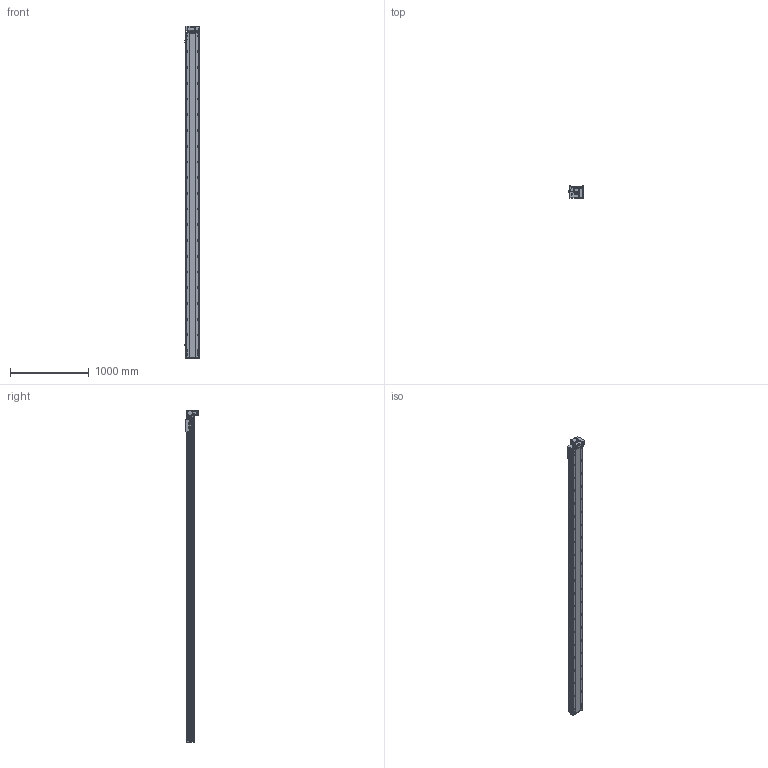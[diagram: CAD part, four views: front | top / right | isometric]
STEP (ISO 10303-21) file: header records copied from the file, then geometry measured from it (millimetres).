
FILE_DESCRIPTION (( 'STEP AP214' ), '1' );
FILE_NAME ('RTB17S-XX-3850-RM-M40-C4.STEP', '2025-12-11T08:41:42', ( '' ), ( '' ), 'SwSTEP 2.0', 'SolidWorks 2018', '' );
FILE_SCHEMA (( 'AUTOMOTIVE_DESIGN' ));
Length unit declared in the file: millimetre
Products named in the file (14): RTB17-R-011菁釱^RTB17S-XX-XX-RM-M40-C4; RTB17S-L-004佪裝蹟譫蟀諉釱^RTB17S-XX-XX-RM-M40-C4; RTB17S-XX-3850-RM-M40-C4; RTB14-L-008-M20--萇儂啣^RTB17S-RM-々湍釱蚾饜-400W_RTB17S-XX-XX-RM-M40-C4; RTH13-BL-012覜茼え俋离^RTB17S-XX-XX-RM-M40-C4; RTB17S-L-014-T20--々湍釱^RTB17S-RM-々湍釱蚾饜-400W_RTB17S-XX-XX-RM-M40-C4; RTB17S-L-001耜醱啣^RTB17S-XX-XX-RM-M40-C4; OMRON EE-SX672 传感器^RTB17S-XX-XX-RM-M40-C4; RTB14-L-005P--轴承塑胶压盖^RTB17S-RM-皮带座装配-400W_RTB17S-XX-XX-RM-M40-C4; RTB14-L-017P^RTB17S-RM-々湍釱蚾饜-400W_RTB17S-XX-XX-RM-M40-C4; RTB17S-RM-々湍釱蚾饜-400W^RTB17S-XX-XX-RM-M40-C4; RTB14-L-018P^RTB17S-RM-々湍釱蚾饜-400W_RTB17S-XX-XX-RM-M40-C4; 400W侜督萇儂^RTB17S-XX-XX-RM-M40-C4; RTB17S-L-007奻裔^RTB17S-XX-XX-RM-M40-C4
Assembly tree (16 placements, depth 3):
  RTB17S-XX-3850-RM-M40-C4
    RTB17-R-011菁釱^RTB17S-XX-XX-RM-M40-C4
    RTB17S-L-007奻裔^RTB17S-XX-XX-RM-M40-C4
    OMRON EE-SX672 传感器^RTB17S-XX-XX-RM-M40-C4  x3
    RTB17S-L-001耜醱啣^RTB17S-XX-XX-RM-M40-C4
    400W侜督萇儂^RTB17S-XX-XX-RM-M40-C4
    RTB17S-L-004佪裝蹟譫蟀諉釱^RTB17S-XX-XX-RM-M40-C4
    RTH13-BL-012覜茼え俋离^RTB17S-XX-XX-RM-M40-C4
    RTB17S-RM-々湍釱蚾饜-400W^RTB17S-XX-XX-RM-M40-C4
      RTB17S-L-014-T20--々湍釱^RTB17S-RM-々湍釱蚾饜-400W_RTB17S-XX-XX-RM-M40-C4
      RTB14-L-005P--轴承塑胶压盖^RTB17S-RM-皮带座装配-400W_RTB17S-XX-XX-RM-M40-C4
      RTB14-L-008-M20--萇儂啣^RTB17S-RM-々湍釱蚾饜-400W_RTB17S-XX-XX-RM-M40-C4
      RTB14-L-017P^RTB17S-RM-々湍釱蚾饜-400W_RTB17S-XX-XX-RM-M40-C4  x2
      RTB14-L-018P^RTB17S-RM-々湍釱蚾饜-400W_RTB17S-XX-XX-RM-M40-C4
Bounding box: 183.5 x 156.5 x 4222.5 mm (x, y, z)
Volume: 35610601.2 mm3; surface area: 4034343.9 mm2
Topology: 15 solids, 15 shells, 2445 faces, 6897 edges, 4509 vertices
Faces by surface type: plane 1098, cylinder 899, bspline 301, cone 139, torus 8
Entity records: 74153 total; most frequent: CARTESIAN_POINT 21302, ORIENTED_EDGE 10638, DIRECTION 9746, EDGE_CURVE 5319, VERTEX_POINT 3497, AXIS2_PLACEMENT_3D 3427, LINE 2892, VECTOR 2892
